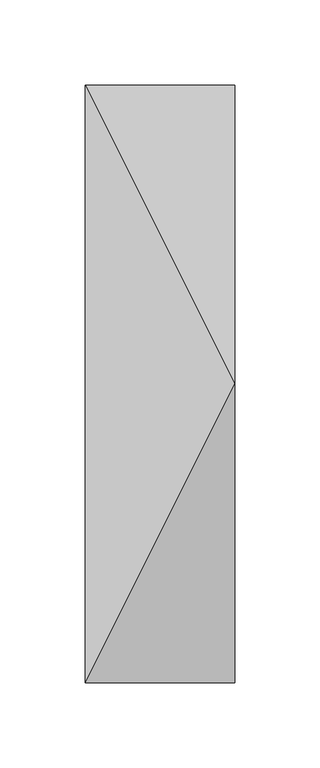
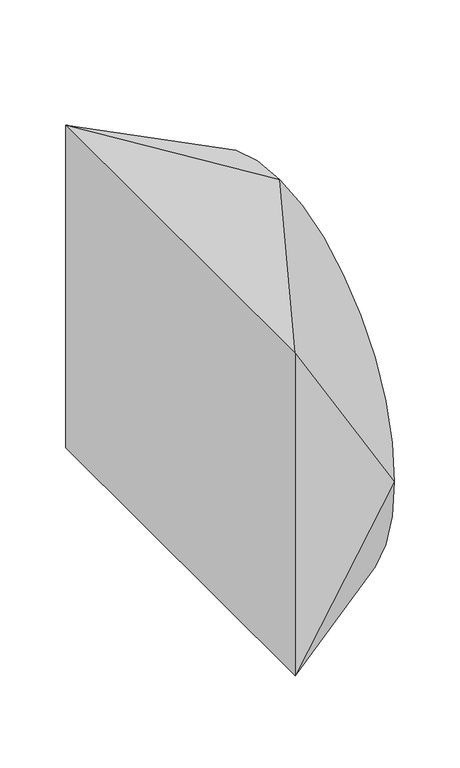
"""IFC4 building model written with IfcOpenShell, lengths in millimetres: duct fitting geometry, magicirc_multi_shape_trans_001 : magicirc_multi_shape_trans_001."""

from ifc_helpers import new_model, si_unit, frame, origin, place, context, project, spatial, circle_curve, source, transform, mapped, element, save
from ifc_brep_helpers import plane_surface, spline_surface, advanced_brep


def duct_fitting_149a15a0(model_context):
    return source(origin(), model_context, "Body", "AdvancedBrep", [
        advanced_brep(
        [(0.0, -175.0, -150.0), (0.0, -175.0, 150.0), (0.0, 175.0, 150.0), (0.0, 175.0, -150.0), (87.5, -175.0, 0.05), (87.5, 0.0, -174.95), (87.5, 175.0, 0.05), (87.5, 0.0, 175.05)],
        [
            (0, 1),
            (1, 2),
            (2, 3),
            (3, 0),
            (4, 5, circle_curve(frame((87.5, 0.0, 0.05), z_axis=(1.0, 0.0, 0.0), x_axis=(0.0, -1.0, 0.0)), 175.0)),
            (5, 6, circle_curve(frame((87.5, 0.0, 0.05), z_axis=(1.0, 0.0, 0.0), x_axis=(0.0, -1.0, 0.0)), 175.0)),
            (6, 7, circle_curve(frame((87.5, 0.0, 0.05), z_axis=(1.0, 0.0, 0.0), x_axis=(0.0, -1.0, 0.0)), 175.0)),
            (7, 4, circle_curve(frame((87.5, 0.0, 0.05), z_axis=(1.0, 0.0, 0.0), x_axis=(0.0, -1.0, 0.0)), 175.0)),
            (0, 4),
            (4, 1),
            (7, 1),
            (7, 2),
            (6, 2),
            (6, 3),
            (5, 3),
            (5, 0),
        ],
        [
            plane_surface(frame((0.0, 0.0, 0.0), z_axis=(-1.0, 0.0, 0.0), x_axis=(0.0, 1.0, 0.0))),
            plane_surface(frame((87.5, 0.0, 0.05), z_axis=(1.0, 0.0, 0.0), x_axis=(0.0, 1.0, 0.0))),
            plane_surface(frame((87.5, -175.0, 0.05), z_axis=(0.0, -1.0, 0.0), x_axis=(0.0, 0.0, 1.0))),
            spline_surface(2, 1, [[(87.5, -175.0, 0.05), (0.0, -175.0, 150.0)], [(87.5, -175.0, 175.05), (0.0, -175.0, 150.0)], [(87.5, 0.0, 175.05), (0.0, -175.0, 150.0)]], [3, 3], [2, 2], [0.0, 1.0], [0.0, 1.0], weights=[[1.0, 1.0], [0.7071067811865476, 0.7071067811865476], [1.0, 1.0]]),
            plane_surface(frame((87.5, 0.0, 175.05), z_axis=(-0.2752289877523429, 0.0, 0.9613786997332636), x_axis=(0.0, 1.0, 0.0))),
            spline_surface(2, 1, [[(87.5, 0.0, 175.05), (0.0, 175.0, 150.0)], [(87.5, 175.0, 175.05), (0.0, 175.0, 150.0)], [(87.5, 175.0, 0.05), (0.0, 175.0, 150.0)]], [3, 3], [2, 2], [0.0, 1.0], [0.0, 1.0], weights=[[1.0, 1.0], [0.7071067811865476, 0.7071067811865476], [1.0, 1.0]]),
            plane_surface(frame((87.5, 175.0, 0.05), z_axis=(0.0, 1.0, 0.0), x_axis=(0.0, 0.0, -1.0))),
            spline_surface(2, 1, [[(87.5, 175.0, 0.05), (0.0, 175.0, -150.0)], [(87.5, 175.0, -174.95), (0.0, 175.0, -150.0)], [(87.5, 0.0, -174.95), (0.0, 175.0, -150.0)]], [3, 3], [2, 2], [0.0, 1.0], [0.0, 1.0], weights=[[1.0, 1.0], [0.7071067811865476, 0.7071067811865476], [1.0, 1.0]]),
            plane_surface(frame((87.5, 0.0, -174.95), z_axis=(-0.27421303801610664, 0.0, -0.961668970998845), x_axis=(0.0, -1.0, 0.0))),
            spline_surface(2, 1, [[(87.5, 0.0, -174.95), (0.0, -175.0, -150.0)], [(87.5, -175.0, -174.95), (0.0, -175.0, -150.0)], [(87.5, -175.0, 0.05), (0.0, -175.0, -150.0)]], [3, 3], [2, 2], [0.0, 1.0], [0.0, 1.0], weights=[[1.0, 1.0], [0.7071067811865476, 0.7071067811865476], [1.0, 1.0]]),
        ],
        [
            (0, [[1, 2, 3, 4]]),
            (1, [[5, 6, 7, 8]]),
            (2, [[-1, 9, 10]]),
            (3, [[-8, 11, -10]]),
            (4, [[-2, -11, 12]]),
            (5, [[-7, 13, -12]]),
            (6, [[-3, -13, 14]]),
            (7, [[-6, 15, -14]]),
            (8, [[-4, -15, 16]]),
            (9, [[-5, -9, -16]]),
        ],
    ),
        advanced_brep(
        [(0.0, -175.0, -150.0), (0.0, -175.0, 150.0), (0.0, 175.0, 150.0), (0.0, 175.0, -150.0), (87.5, -175.0, 0.05), (87.5, 0.0, -174.95), (87.5, 175.0, 0.05), (87.5, 0.0, 175.05)],
        [
            (0, 1),
            (1, 2),
            (2, 3),
            (3, 0),
            (4, 5, circle_curve(frame((87.5, 0.0, 0.05), z_axis=(1.0, 0.0, 0.0), x_axis=(0.0, -1.0, 0.0)), 175.0)),
            (5, 6, circle_curve(frame((87.5, 0.0, 0.05), z_axis=(1.0, 0.0, 0.0), x_axis=(0.0, -1.0, 0.0)), 175.0)),
            (6, 7, circle_curve(frame((87.5, 0.0, 0.05), z_axis=(1.0, 0.0, 0.0), x_axis=(0.0, -1.0, 0.0)), 175.0)),
            (7, 4, circle_curve(frame((87.5, 0.0, 0.05), z_axis=(1.0, 0.0, 0.0), x_axis=(0.0, -1.0, 0.0)), 175.0)),
            (0, 4),
            (4, 1),
            (7, 1),
            (7, 2),
            (6, 2),
            (6, 3),
            (5, 3),
            (5, 0),
        ],
        [
            plane_surface(frame((0.0, 0.0, 0.0), z_axis=(-1.0, 0.0, 0.0), x_axis=(0.0, 1.0, 0.0))),
            plane_surface(frame((87.5, 0.0, 0.05), z_axis=(1.0, 0.0, 0.0), x_axis=(0.0, 1.0, 0.0))),
            plane_surface(frame((87.5, -175.0, 0.05), z_axis=(0.0, -1.0, 0.0), x_axis=(0.0, 0.0, 1.0))),
            spline_surface(2, 1, [[(87.5, -175.0, 0.05), (0.0, -175.0, 150.0)], [(87.5, -175.0, 175.05), (0.0, -175.0, 150.0)], [(87.5, 0.0, 175.05), (0.0, -175.0, 150.0)]], [3, 3], [2, 2], [0.0, 1.0], [0.0, 1.0], weights=[[1.0, 1.0], [0.7071067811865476, 0.7071067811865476], [1.0, 1.0]]),
            plane_surface(frame((87.5, 0.0, 175.05), z_axis=(-0.2752289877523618, 0.0, 0.9613786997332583), x_axis=(0.0, 1.0, 0.0))),
            spline_surface(2, 1, [[(87.5, 0.0, 175.05), (0.0, 175.0, 150.0)], [(87.5, 175.0, 175.05), (0.0, 175.0, 150.0)], [(87.5, 175.0, 0.05), (0.0, 175.0, 150.0)]], [3, 3], [2, 2], [0.0, 1.0], [0.0, 1.0], weights=[[1.0, 1.0], [0.7071067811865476, 0.7071067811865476], [1.0, 1.0]]),
            plane_surface(frame((87.5, 175.0, 0.05), z_axis=(0.0, 1.0, 0.0), x_axis=(0.0, 0.0, -1.0))),
            spline_surface(2, 1, [[(87.5, 175.0, 0.05), (0.0, 175.0, -150.0)], [(87.5, 175.0, -174.95), (0.0, 175.0, -150.0)], [(87.5, 0.0, -174.95), (0.0, 175.0, -150.0)]], [3, 3], [2, 2], [0.0, 1.0], [0.0, 1.0], weights=[[1.0, 1.0], [0.7071067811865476, 0.7071067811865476], [1.0, 1.0]]),
            plane_surface(frame((87.5, 0.0, -174.95), z_axis=(-0.2742130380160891, 0.0, -0.96166897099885), x_axis=(0.0, -1.0, 0.0))),
            spline_surface(2, 1, [[(87.5, 0.0, -174.95), (0.0, -175.0, -150.0)], [(87.5, -175.0, -174.95), (0.0, -175.0, -150.0)], [(87.5, -175.0, 0.05), (0.0, -175.0, -150.0)]], [3, 3], [2, 2], [0.0, 1.0], [0.0, 1.0], weights=[[1.0, 1.0], [0.7071067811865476, 0.7071067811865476], [1.0, 1.0]]),
        ],
        [
            (0, [[1, 2, 3, 4]]),
            (1, [[5, 6, 7, 8]]),
            (2, [[-1, 9, 10]]),
            (3, [[-8, 11, -10]]),
            (4, [[-2, -11, 12]]),
            (5, [[-7, 13, -12]]),
            (6, [[-3, -13, 14]]),
            (7, [[-6, 15, -14]]),
            (8, [[-4, -15, 16]]),
            (9, [[-5, -9, -16]]),
        ],
    ),
        advanced_brep(
        [(87.5, 0.0, 175.05), (87.5, -175.0, 0.05), (87.5, 0.0, -174.95), (87.5, 175.0, 0.05), (0.0, -175.0, 150.0), (0.0, 175.0, 150.0), (0.0, 175.0, -150.0), (0.0, -175.0, -150.0)],
        [
            (0, 1, circle_curve(frame((87.5, 0.0, 0.05), z_axis=(1.0, 0.0, 0.0), x_axis=(0.0, 1.0, 0.0)), 175.0)),
            (1, 2, circle_curve(frame((87.5, 0.0, 0.05), z_axis=(1.0, 0.0, 0.0), x_axis=(0.0, 1.0, 0.0)), 175.0)),
            (2, 3, circle_curve(frame((87.5, 0.0, 0.05), z_axis=(1.0, 0.0, 0.0), x_axis=(0.0, 1.0, 0.0)), 175.0)),
            (3, 0, circle_curve(frame((87.5, 0.0, 0.05), z_axis=(1.0, 0.0, 0.0), x_axis=(0.0, 1.0, 0.0)), 175.0)),
            (4, 5),
            (5, 6),
            (6, 7),
            (7, 4),
            (0, 4),
            (4, 1),
            (7, 1),
            (7, 2),
            (6, 2),
            (6, 3),
            (5, 3),
            (5, 0),
        ],
        [
            plane_surface(frame((87.5, 0.0, 0.05), z_axis=(1.0, 0.0, 0.0), x_axis=(0.0, 0.0, -1.0))),
            plane_surface(frame((0.0, 0.0, 0.0), z_axis=(-1.0, 0.0, 0.0), x_axis=(0.0, 0.0, -1.0))),
            spline_surface(2, 1, [[(0.0, -175.0, 150.0), (87.5, 0.0, 175.05)], [(0.0, -175.0, 150.0), (87.5, -175.0, 175.05)], [(0.0, -175.0, 150.0), (87.5, -175.0, 0.05)]], [3, 3], [2, 2], [0.0, 1.0], [0.0, 1.0], weights=[[1.0, 1.0], [0.7071067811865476, 0.7071067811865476], [1.0, 1.0]]),
            plane_surface(frame((0.0, -175.0, 0.0), z_axis=(0.0, -1.0, 0.0), x_axis=(0.0, 0.0, -1.0))),
            spline_surface(2, 1, [[(0.0, -175.0, -150.0), (87.5, -175.0, 0.05)], [(0.0, -175.0, -150.0), (87.5, -175.0, -174.95)], [(0.0, -175.0, -150.0), (87.5, 0.0, -174.95)]], [3, 3], [2, 2], [0.0, 1.0], [0.0, 1.0], weights=[[1.0, 1.0], [0.7071067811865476, 0.7071067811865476], [1.0, 1.0]]),
            plane_surface(frame((0.0, 0.0, -150.0), z_axis=(-0.2742130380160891, 0.0, -0.96166897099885), x_axis=(0.0, 1.0, 0.0))),
            spline_surface(2, 1, [[(0.0, 175.0, -150.0), (87.5, 0.0, -174.95)], [(0.0, 175.0, -150.0), (87.5, 175.0, -174.95)], [(0.0, 175.0, -150.0), (87.5, 175.0, 0.05)]], [3, 3], [2, 2], [0.0, 1.0], [0.0, 1.0], weights=[[1.0, 1.0], [0.7071067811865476, 0.7071067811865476], [1.0, 1.0]]),
            plane_surface(frame((0.0, 175.0, 0.0), z_axis=(0.0, 1.0, 0.0), x_axis=(0.0, 0.0, 1.0))),
            spline_surface(2, 1, [[(0.0, 175.0, 150.0), (87.5, 175.0, 0.05)], [(0.0, 175.0, 150.0), (87.5, 175.0, 175.05)], [(0.0, 175.0, 150.0), (87.5, 0.0, 175.05)]], [3, 3], [2, 2], [0.0, 1.0], [0.0, 1.0], weights=[[1.0, 1.0], [0.7071067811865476, 0.7071067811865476], [1.0, 1.0]]),
            plane_surface(frame((0.0, 0.0, 150.0), z_axis=(-0.2752289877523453, 0.0, 0.961378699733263), x_axis=(0.0, -1.0, 0.0))),
        ],
        [
            (0, [[1, 2, 3, 4]]),
            (1, [[5, 6, 7, 8]]),
            (2, [[-1, 9, 10]]),
            (3, [[-8, 11, -10]]),
            (4, [[-2, -11, 12]]),
            (5, [[-7, 13, -12]]),
            (6, [[-3, -13, 14]]),
            (7, [[-6, 15, -14]]),
            (8, [[-4, -15, 16]]),
            (9, [[-5, -9, -16]]),
        ],
    ),
    ])


if __name__ == "__main__":
    model = new_model("IFC4")
    model_context = context("Model", 3, world=origin())
    ifc_project = project(units=[si_unit("LENGTHUNIT", "METRE", prefix="MILLI")], contexts=[model_context])
    site = spatial("IfcSite", under=ifc_project)
    building = spatial("IfcBuilding", under=site)
    placement = place(None, origin())
    duct_fitting_shape = duct_fitting_149a15a0(model_context)
    element("IfcDuctFitting", 1, ObjectType="magicirc_multi_shape_trans_001 : magicirc_multi_shape_trans_001", at=placement, inside=building, context=model_context, shape_type="MappedRepresentation", body=[
        mapped(duct_fitting_shape, transform((0.0, 0.0, 0.0), x_axis=(1.0, 0.0, 0.0), y_axis=(0.0, 1.0, 0.0), z_axis=(0.0, 0.0, 1.0))),
    ])
    save(model, "model.ifc")
